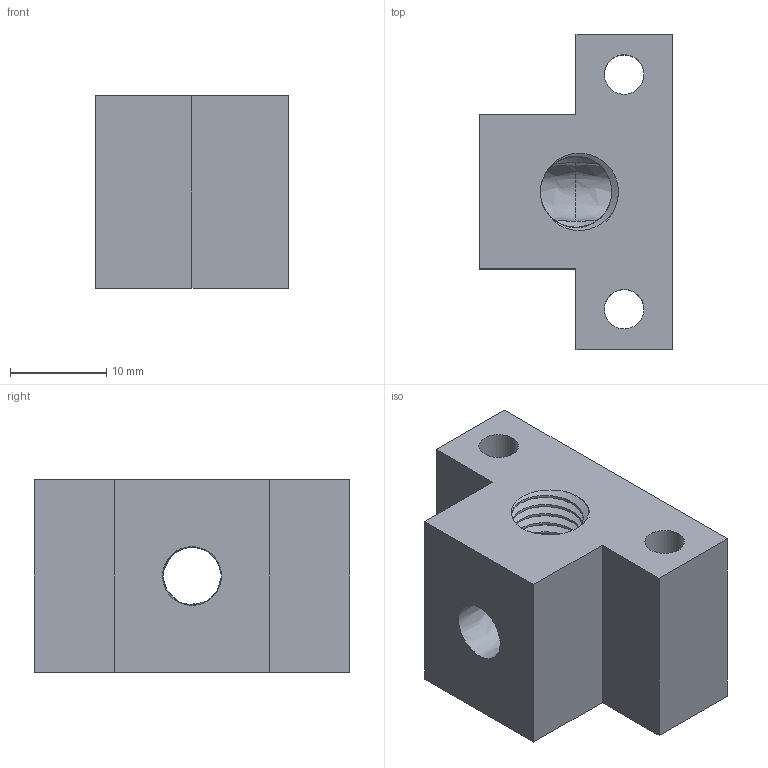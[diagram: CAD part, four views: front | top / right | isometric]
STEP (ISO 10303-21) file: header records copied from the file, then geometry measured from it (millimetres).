
FILE_DESCRIPTION ((), '1');
FILE_NAME ('C:\Users\tprototype\Desktop\TeslaGen Project\TeslaGen-v1 CAD Package\CNC Parts\Spark Gap\Bracket\Bracket.stp', '2016-11-22T17:38:57', ('Unknown'), ('Unknown'), 'HarmonyWare STEP v1.7.11', 'HarmonyWare Translators', '');
FILE_SCHEMA (('CONFIG_CONTROL_DESIGN'));
Length unit declared in the file: millimetre
Products named in the file (1): product-name
Bounding box: 20 x 32.7 x 20 mm (x, y, z)
Volume: 8243.5 mm3; surface area: 4111.6 mm2
Topology: 1 solids, 1 shells, 38 faces, 118 edges, 81 vertices
Faces by surface type: bspline 38
Entity records: 17211 total; most frequent: CARTESIAN_POINT 16425, ORIENTED_EDGE 236, EDGE_CURVE 118, B_SPLINE_CURVE_WITH_KNOTS 103, VERTEX_POINT 81, EDGE_LOOP 45, FACE_OUTER_BOUND 38, ADVANCED_FACE 38
